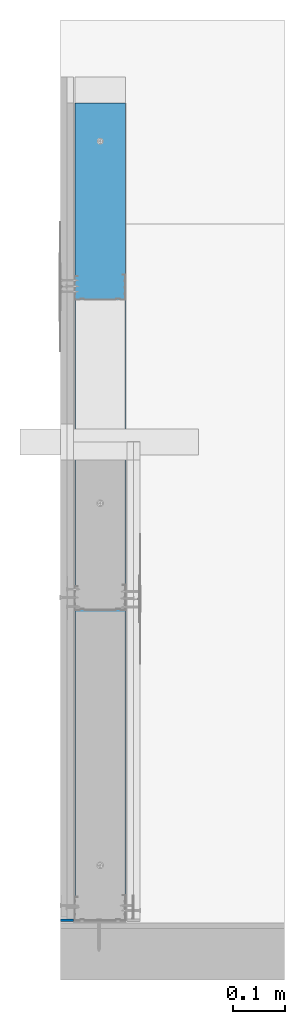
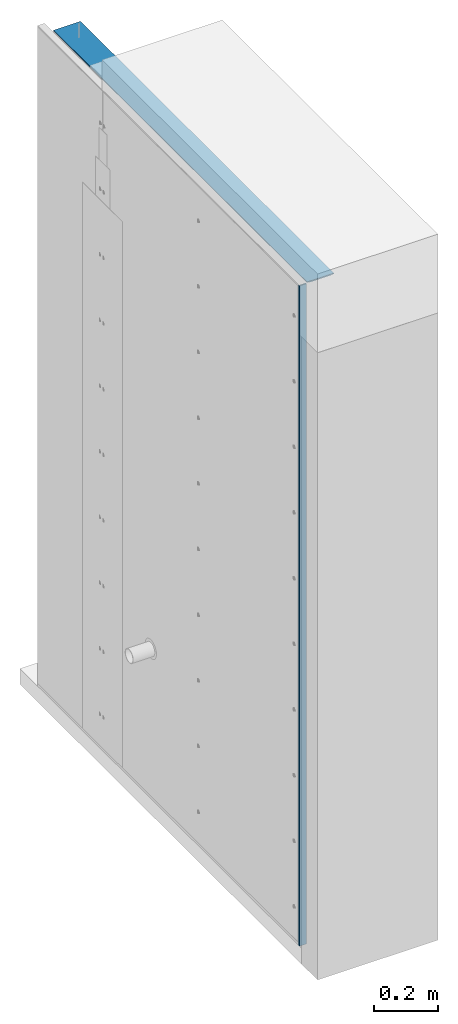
# One storey, part 2 of 92: 2 walls.
"""IFC2X3 building model written with IfcOpenShell, lengths in millimetres."""

import ifcopenshell
import ifcopenshell.guid

model = None  # the IFC model being written
_history = None  # IfcOwnerHistory: only IFC2X3 demands one
_inside = {}  # id of a spatial element -> (the spatial element, [elements in it])
_under = {}  # id of a project, library or spatial element -> (it, [spatial elements below it])
_declared = {}  # id of a project -> (the project, [libraries it declares])
_typed = {}  # id of a type object -> (the type object, [elements of that type])
_made_of = {}  # id of a material, layer set ... -> (it, [elements and type objects made of it])


def new_model(schema):
    """Start an empty IFC model of exactly this schema.

    Asked for "IFC4X3", IfcOpenShell would pick the latest addendum, in which some entities
    have other attributes; the version numbers below select the first issue.
    IFC2X3 requires an IfcOwnerHistory on every rooted entity: one is made here for all.
    """
    global model, _history
    if schema == "IFC4X3":
        model = ifcopenshell.file(schema_version=(4, 3, 0, 0))
    else:
        model = ifcopenshell.file(schema=schema)
    _inside.clear()
    _under.clear()
    _declared.clear()
    _typed.clear()
    _made_of.clear()
    _history = None
    if model.schema == "IFC2X3":
        org = make("IfcOrganization", Name="unknown")
        user = make(
            "IfcPersonAndOrganization",
            ThePerson=make("IfcPerson", FamilyName="unknown"),
            TheOrganization=org,
        )
        app = make(
            "IfcApplication",
            ApplicationDeveloper=org,
            Version="unknown",
            ApplicationFullName="unknown",
            ApplicationIdentifier="unknown",
        )
        _history = make(
            "IfcOwnerHistory",
            OwningUser=user,
            OwningApplication=app,
            ChangeAction="ADDED",
            CreationDate=0,
        )
    return model


def make(cls, **values):
    """One entity of the class cls with the attributes given. An attribute that is None is left unset."""
    return model.create_entity(
        cls, **{name: value for name, value in values.items() if value is not None}
    )


def rooted(cls, **values):
    """An entity with a GlobalId (a new one), such as an element, a storey or a relation."""
    return make(cls, GlobalId=ifcopenshell.guid.new(), OwnerHistory=_history, **values)


def si_unit(unit_type, name, prefix=None):
    """IfcSIUnit, for example si_unit("LENGTHUNIT", "METRE", prefix="MILLI")."""
    return make("IfcSIUnit", UnitType=unit_type, Prefix=prefix, Name=name)


def assignment(units):
    """IfcUnitAssignment: the units of a project."""
    return None if units is None else make("IfcUnitAssignment", Units=units)


def point(xyz):
    """IfcCartesianPoint."""
    return None if xyz is None else make("IfcCartesianPoint", Coordinates=xyz)


def direction(xyz):
    """IfcDirection."""
    return None if xyz is None else make("IfcDirection", DirectionRatios=xyz)


def frame(location, z_axis=None, x_axis=None):
    """IfcAxis2Placement3D, a coordinate frame: its origin and axes. An axis left out is left unset."""
    return make(
        "IfcAxis2Placement3D",
        Location=point(location),
        Axis=direction(z_axis),
        RefDirection=direction(x_axis),
    )


def origin_with_axes():
    """The frame at (0, 0, 0) with the z axis (0, 0, 1) and the x axis (1, 0, 0) written out."""
    return frame((0.0, 0.0, 0.0), z_axis=(0.0, 0.0, 1.0), x_axis=(1.0, 0.0, 0.0))


def place(relative_to, where):
    """IfcLocalPlacement: puts the frame where relative to a parent placement (None: the world)."""
    return make(
        "IfcLocalPlacement", PlacementRelTo=relative_to, RelativePlacement=where
    )


def context(
    kind, dimensions, precision=None, world=None, true_north=None, identifier=None
):
    """IfcGeometricRepresentationContext, for example the 3D "Model" context."""
    return make(
        "IfcGeometricRepresentationContext",
        ContextIdentifier=identifier,
        ContextType=kind,
        CoordinateSpaceDimension=dimensions,
        Precision=precision,
        WorldCoordinateSystem=world,
        TrueNorth=true_north,
    )


def subcontext(parent, identifier, kind, view, scale=None):
    """IfcGeometricRepresentationSubContext, for example "Body" below "Model"."""
    return make(
        "IfcGeometricRepresentationSubContext",
        ContextIdentifier=identifier,
        ContextType=kind,
        ParentContext=parent,
        TargetScale=scale,
        TargetView=view,
    )


def project(units=None, contexts=None):
    """IfcProject with its units and contexts."""
    return rooted(
        "IfcProject",
        Name="project",
        RepresentationContexts=contexts,
        UnitsInContext=assignment(units),
    )


def spatial(cls, under=None, at=None, **own):
    """A site, building, storey or space (cls), placed at a placement, below another one or the project."""
    s = rooted(cls, ObjectPlacement=at, **own)
    if under is not None:
        _under.setdefault(under.id(), (under, []))[1].append(s)
    return s


def faces_of(points, faces, orient=None, outer=None):
    """IfcFace entities. A face is a list of loops; a loop is a list of indices into points, from 0.

    orient and outer hold one flag for each loop. By default every Orientation is true, the
    first loop of a face is its IfcFaceOuterBound and the others are IfcFaceBound.
    """
    made = []
    for i, loops in enumerate(faces):
        bounds = []
        for j, loop in enumerate(loops):
            is_outer = j == 0 if outer is None else outer[i][j]
            bounds.append(
                make(
                    "IfcFaceOuterBound" if is_outer else "IfcFaceBound",
                    Bound=make("IfcPolyLoop", Polygon=[points[k] for k in loop]),
                    Orientation=True if orient is None else orient[i][j],
                )
            )
        made.append(make("IfcFace", Bounds=bounds))
    return made


def faceted_brep(points, faces, orient=None, outer=None, voids=None):
    """IfcFacetedBrep: a solid bounded by flat faces; with voids (closed shells), ...WithVoids."""
    shared = [point(p) for p in points]
    hull = make("IfcClosedShell", CfsFaces=faces_of(shared, faces, orient, outer))
    if voids is None:
        return make("IfcFacetedBrep", Outer=hull)
    return make(
        "IfcFacetedBrepWithVoids",
        Outer=hull,
        Voids=[
            make(cls, CfsFaces=faces_of(shared, fs, o, b)) for cls, fs, o, b in voids
        ],
    )


def shape(context_of_items, identifier, shape_type, items):
    """IfcShapeRepresentation: the items that make up one representation, for example the "Body"."""
    return make(
        "IfcShapeRepresentation",
        ContextOfItems=context_of_items,
        RepresentationIdentifier=identifier,
        RepresentationType=shape_type,
        Items=items,
    )


def material(Name=None, Category=None):
    """IfcMaterial."""
    return make("IfcMaterial", Name=Name, Category=Category)


def made_of(thing, what):
    """Note that an element or type object is made of a material, layer set ...; save() writes the relation."""
    if what is not None:
        _made_of.setdefault(what.id(), (what, []))[1].append(thing)
    return thing


def type_object(cls, material=None, **own):
    """A type object (cls), such as IfcWallType, which elements share."""
    return made_of(rooted(cls, **own), material)


def element(
    cls,
    number,
    at=None,
    inside=None,
    cuts=None,
    type_object=None,
    material=None,
    context=None,
    identifier="Body",
    shape_type=None,
    held_by="IfcProductDefinitionShape",
    body=None,
    shapes=None,
    **own,
):
    """One element of the class cls, such as IfcWall. Its Tag is "e" and its number.

    at: its placement. inside: the storey or other place that contains it. cuts: it is an
    opening in that element (IfcRelVoidsElement). A single representation is given by context,
    identifier, shape_type and body (its items); several are given by shapes. held_by: the class
    of the entity that holds the representations. save() writes the other relations.
    """
    e = rooted(cls, Tag="e%d" % number, ObjectPlacement=at, **own)
    if body is not None:
        shapes = [shape(context, identifier, shape_type, body)]
    if shapes is not None:
        e.Representation = make(held_by, Representations=shapes)
    if inside is not None:
        _inside.setdefault(inside.id(), (inside, []))[1].append(e)
    if cuts is not None:
        rooted(
            "IfcRelVoidsElement", RelatingBuildingElement=cuts, RelatedOpeningElement=e
        )
    if type_object is not None:
        _typed.setdefault(type_object.id(), (type_object, []))[1].append(e)
    return made_of(e, material)


def aggregate(whole, parts):
    """IfcRelAggregates: a whole, such as a stair, and the parts it consists of."""
    return rooted("IfcRelAggregates", RelatingObject=whole, RelatedObjects=parts)


def save(model, path):
    """Write the relations noted so far, then the file.

    IfcRelAggregates (storeys below a building ...), IfcRelContainedInSpatialStructure (elements
    in a storey), IfcRelDefinesByType, IfcRelAssociatesMaterial and IfcRelDeclares: one each for
    every whole, place, type object, material and project.
    """
    for whole, parts in _under.values():
        aggregate(whole, parts)
    for where, things in _inside.values():
        rooted(
            "IfcRelContainedInSpatialStructure",
            RelatedElements=things,
            RelatingStructure=where,
        )
    for kind, things in _typed.values():
        rooted("IfcRelDefinesByType", RelatedObjects=things, RelatingType=kind)
    for what, things in _made_of.values():
        rooted("IfcRelAssociatesMaterial", RelatedObjects=things, RelatingMaterial=what)
    for by, libraries in _declared.values():
        rooted("IfcRelDeclares", RelatingContext=by, RelatedDefinitions=libraries)
    model.write(path)


model = new_model("IFC2X3")

# Units and contexts
model_context = context("Model", 3, world=origin_with_axes())
body_context = subcontext(model_context, "Body", "Model", "MODEL_VIEW")
ifc_project = project(units=[si_unit("LENGTHUNIT", "METRE", prefix="MILLI"), si_unit("AREAUNIT", "SQUARE_METRE"), si_unit("VOLUMEUNIT", "CUBIC_METRE")], contexts=[model_context])

# Site, building, storey
site_placement = place(None, origin_with_axes())
site = spatial("IfcSite", under=ifc_project, at=site_placement, Name="Default Site", CompositionType="ELEMENT")
building_placement = place(site_placement, origin_with_axes())
building = spatial("IfcBuilding", under=site, at=building_placement, Name="Default Building", CompositionType="ELEMENT")
storey_placement = place(building_placement, origin_with_axes())
storey = spatial("IfcBuildingStorey", under=building, at=storey_placement, Name="Default Building Storey", CompositionType="ELEMENT", Elevation=0.0)

# Walls
ifc_material_1 = material(Name="Undefined1")
wall_type_1 = type_object("IfcWallType", Name="Taśma uszczelniająca piankowa RIGIPS#5", PredefinedType="NOTDEFINED")
wall_1_placement = place(storey_placement, frame((97.74808682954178, -121.90857985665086, 2578.0117836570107), z_axis=(5.273559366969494e-16, -2.122374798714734e-31, -1.0), x_axis=(4.0245584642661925e-16, 1.0, 0.0)))
element("IfcWall", 1, at=wall_1_placement, inside=storey, type_object=wall_type_1, material=ifc_material_1, Name="Taśma uszczelniająca piankowa RIGIPS", context=body_context, shape_type="Brep", body=[
    faceted_brep([(1818.0406768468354, 27.850001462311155, 3.001783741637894), (1818.040676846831, 19.87539783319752, 3.0017841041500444), (1818.0406768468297, 19.81333822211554, 3.0037119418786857), (1818.040676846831, 19.751518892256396, 3.0094861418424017), (1818.0406768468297, 19.690178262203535, 3.0190862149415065), (1818.0406768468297, 19.62955102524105, 3.032474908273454), (1818.040676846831, 19.569870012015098, 3.049600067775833), (1818.040676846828, 19.511368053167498, 3.0703965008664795), (1818.040676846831, 19.454268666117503, 3.0947822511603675), (1818.040676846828, -60.954268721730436, 3.0947822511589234), (1818.040676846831, -61.01136810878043, 3.0703965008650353), (1818.040676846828, -61.06987006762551, 3.049600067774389), (1818.0406768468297, -61.12955108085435, 3.03247490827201), (1818.0406768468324, -61.19017831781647, 3.019086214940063), (1818.040676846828, -61.251518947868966, 3.0094861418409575), (1818.0406768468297, -61.31333827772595, 3.003711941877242), (1818.040676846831, -61.37539788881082, 3.0017841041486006), (1818.0406768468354, -69.32486698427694, 2.9984184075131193), (1818.0406768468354, -69.32486698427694, -3.609557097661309e-12), (1818.0406768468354, 27.850001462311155, 0.0017836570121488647), (1818.0406768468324, 12.210165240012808, 4.8017829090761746), (1818.0406768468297, -59.24837447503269, 4.801782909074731), (1818.0406768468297, -59.92647975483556, 4.536748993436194), (1818.0406768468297, -59.970782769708, 4.493250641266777), (1818.040676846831, -60.01230113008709, 4.4470868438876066), (1818.0406768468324, -60.05087651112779, 4.39843455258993), (1818.040676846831, -60.08635617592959, 4.347481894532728), (1818.040676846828, -60.11860601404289, 4.294426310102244), (1818.040676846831, -60.14750122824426, 4.239472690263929), (1818.040676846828, -60.476271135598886, 3.5640943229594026), (1818.0406768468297, -60.50516634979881, 3.5091407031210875), (1818.040676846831, -60.53741618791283, 3.456085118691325), (1818.040676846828, -60.572895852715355, 3.4051324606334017), (1818.0406768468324, -60.61147123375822, 3.356480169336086), (1818.0406768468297, -60.65298959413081, 3.310316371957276), (1818.0406768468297, -60.69729260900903, 3.2668180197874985), (1818.040676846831, -60.74421077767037, 3.226152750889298), (1818.0406768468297, -60.79356156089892, 3.188477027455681), (1818.040676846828, -60.845156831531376, 3.153936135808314), (1818.0406768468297, -60.89879356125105, 3.122664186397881), (1818.0406768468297, 19.398793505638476, 3.1226641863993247), (1818.040676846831, 19.34515677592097, 3.153936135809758), (1818.040676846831, 19.293561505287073, 3.1884770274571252), (1818.0406768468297, 19.24421072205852, 3.226152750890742), (1818.0406768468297, 19.197292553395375, 3.2668180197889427), (1818.0406768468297, 19.15298953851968, 3.31031637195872), (1818.040676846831, 19.11147117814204, 3.35648016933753), (1818.0406768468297, 19.072895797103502, 3.405132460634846), (1818.0406768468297, 19.03741613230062, 3.4560851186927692), (1818.040676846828, 19.00516629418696, 3.5091407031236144), (1818.040676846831, 18.97627107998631, 3.5640943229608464), (1818.040676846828, 18.647501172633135, 4.239472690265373), (1818.0406768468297, 18.618605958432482, 4.294426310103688), (1818.0406768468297, 18.586356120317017, 4.347481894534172), (1818.040676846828, 18.550876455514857, 4.3984345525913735), (1818.040676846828, 18.51230107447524, 4.447086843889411), (1818.0406768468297, 18.47078271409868, 4.493250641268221), (1818.040676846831, 18.42647969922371, 4.536748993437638), (1818.0406768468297, 18.379561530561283, 4.577414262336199), (1818.0406768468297, 18.330210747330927, 4.615089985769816), (1818.0406768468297, 17.74837441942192, 4.8017829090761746), (236.91297158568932, 27.850001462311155, 3.001783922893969), (236.91297158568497, 19.87539783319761, 3.00178428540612), (236.91297158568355, 19.813338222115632, 3.003712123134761), (236.91297158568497, 19.751518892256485, 3.0094863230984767), (236.91297158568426, 19.690178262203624, 3.019086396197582), (236.91297158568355, 19.629551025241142, 3.0324750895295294), (236.91297158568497, 19.569870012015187, 3.0496002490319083), (236.9129715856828, 19.511368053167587, 3.0703966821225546), (236.91297158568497, 19.454268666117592, 3.0947824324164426), (236.9129715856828, -60.954268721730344, 3.094782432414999), (236.91297158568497, -61.011368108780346, 3.070396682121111), (236.9129715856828, -61.069870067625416, 3.0496002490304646), (236.91297158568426, -61.129551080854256, 3.0324750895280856), (236.91297158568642, -61.190178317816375, 3.0190863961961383), (236.9129715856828, -61.25151894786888, 3.009486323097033), (236.91297158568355, -61.31333827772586, 3.003712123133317), (236.9129715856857, -61.375397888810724, 3.001784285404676), (236.91297158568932, -69.32486698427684, 2.9984185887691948), (236.91297158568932, -69.32486698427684, 1.8125246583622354e-07), (236.91297158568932, 27.850001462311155, 0.0017838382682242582), (236.91297158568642, 12.210165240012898, 4.8017830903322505), (236.91297158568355, -59.2483744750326, 4.801783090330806), (236.91297158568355, -59.92647975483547, 4.536749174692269), (236.91297158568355, -59.97078276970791, 4.493250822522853), (236.9129715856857, -60.012301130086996, 4.447087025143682), (236.91297158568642, -60.0508765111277, 4.398434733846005), (236.91297158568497, -60.0863561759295, 4.347482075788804), (236.9129715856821, -60.1186060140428, 4.29442649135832), (236.9129715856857, -60.147501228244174, 4.239472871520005), (236.9129715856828, -60.47627113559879, 3.564094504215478), (236.91297158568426, -60.50516634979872, 3.509140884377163), (236.9129715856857, -60.53741618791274, 3.4560852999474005), (236.9129715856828, -60.57289585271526, 3.405132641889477), (236.91297158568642, -60.61147123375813, 3.3564803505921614), (236.91297158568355, -60.65298959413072, 3.3103165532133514), (236.91297158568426, -60.69729260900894, 3.266818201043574), (236.91297158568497, -60.74421077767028, 3.2261529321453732), (236.91297158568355, -60.79356156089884, 3.1884772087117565), (236.9129715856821, -60.845156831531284, 3.1539363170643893), (236.91297158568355, -60.89879356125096, 3.1226643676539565), (236.91297158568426, 19.398793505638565, 3.1226643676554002), (236.91297158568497, 19.34515677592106, 3.153936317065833), (236.91297158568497, 19.293561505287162, 3.1884772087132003), (236.91297158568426, 19.24421072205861, 3.2261529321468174), (236.91297158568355, 19.197292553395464, 3.2668182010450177), (236.91297158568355, 19.152989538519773, 3.310316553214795), (236.91297158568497, 19.11147117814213, 3.356480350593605), (236.91297158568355, 19.072895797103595, 3.405132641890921), (236.91297158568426, 19.03741613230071, 3.4560852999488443), (236.9129715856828, 19.005166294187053, 3.50914088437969), (236.91297158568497, 18.9762710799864, 3.564094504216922), (236.9129715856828, 18.647501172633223, 4.239472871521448), (236.91297158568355, 18.61860595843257, 4.294426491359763), (236.91297158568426, 18.58635612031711, 4.347482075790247), (236.9129715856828, 18.550876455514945, 4.398434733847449), (236.9129715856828, 18.512301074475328, 4.447087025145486), (236.91297158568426, 18.470782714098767, 4.493250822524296), (236.91297158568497, 18.426479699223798, 4.536749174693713), (236.91297158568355, 18.379561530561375, 4.577414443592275), (236.91297158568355, 18.330210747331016, 4.615090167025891), (236.91297158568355, 17.74837441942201, 4.8017830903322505)], [[[0, 1, 2, 3, 4, 5, 6, 7, 8, 9, 10, 11, 12, 13, 14, 15, 16, 17, 18, 19]], [[20, 21, 22, 23, 24, 25, 26, 27, 28, 29, 30, 31, 32, 33, 34, 35, 36, 37, 38, 39, 9, 8, 40, 41, 42, 43, 44, 45, 46, 47, 48, 49, 50, 51, 52, 53, 54, 55, 56, 57, 58, 59, 60]], [[61, 62, 63, 64, 65, 66, 67, 68, 69, 70, 71, 72, 73, 74, 75, 76, 77, 78, 79, 80]], [[81, 82, 83, 84, 85, 86, 87, 88, 89, 90, 91, 92, 93, 94, 95, 96, 97, 98, 99, 100, 70, 69, 101, 102, 103, 104, 105, 106, 107, 108, 109, 110, 111, 112, 113, 114, 115, 116, 117, 118, 119, 120, 121]], [[79, 80, 19, 18]], [[79, 18, 17, 78]], [[61, 0, 19, 80]]]),
])
ifc_material_2 = material(Name="Undefined5")
wall_type_2 = type_object("IfcWallType", Name="Masa szpachlowa konstrukcyjna RIGIPS#11", PredefinedType="NOTDEFINED")
wall_2_placement = place(storey_placement, frame((0.3500000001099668, 123.00439172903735, -112.10698105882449), z_axis=(1.249000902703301e-16, -1.0, 3.608224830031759e-16), x_axis=(-2.6847463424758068e-31, -3.608224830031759e-16, -1.0)))
element("IfcWall", 2, at=wall_2_placement, inside=storey, type_object=wall_type_2, material=ifc_material_2, Name="Masa szpachlowa konstrukcyjna RIGIPS", context=body_context, shape_type="Brep", body=[
    faceted_brep([(-172.11096525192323, 24.64617043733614, 4.999999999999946), (-172.11096525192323, -0.3499999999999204, 4.999999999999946), (-2686.116981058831, -0.3499999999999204, 5.000000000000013), (-2686.116981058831, 24.64617043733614, 4.999999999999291), (-172.11096525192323, -0.3499999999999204, 10.00439262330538), (-2686.116981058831, -0.3499999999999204, 10.004392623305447), (-172.11096525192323, 24.64617043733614, 10.00439262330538), (-2686.116981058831, 24.64617043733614, 10.004392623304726)], [[[0, 1, 2, 3]], [[1, 4, 5, 2]], [[4, 6, 7, 5]], [[6, 0, 3, 7]], [[7, 3, 2, 5]], [[0, 6, 4, 1]]]),
])

save(model, "model.ifc")
